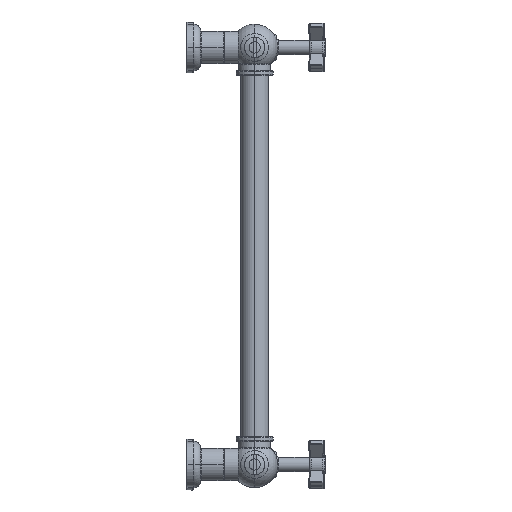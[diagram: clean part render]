
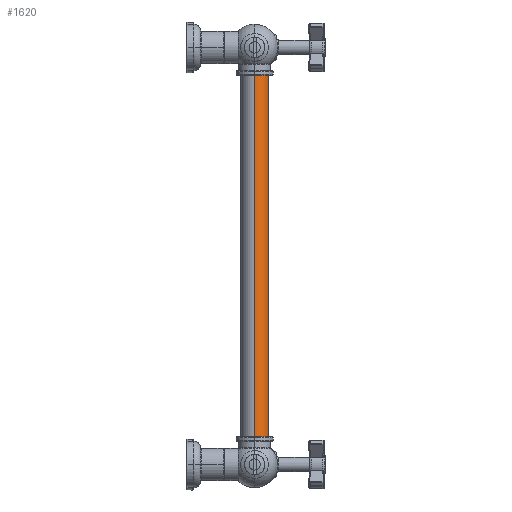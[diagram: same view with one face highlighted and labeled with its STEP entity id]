
A CAD part, left-side view. The second image highlights one B-rep face of the part: STEP entity #1620.
In plain terms, the highlighted cylindrical face has radius 15 mm (diameter 30 mm), a partial arc.
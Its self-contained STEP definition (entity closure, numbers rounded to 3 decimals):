
#241 = VECTOR ( 'NONE', #9413, 1000. ) ;
#671 = EDGE_CURVE ( 'NONE', #14215, #13517, #5617, .T. ) ;
#754 = EDGE_CURVE ( 'NONE', #7205, #13517, #6459, .T. ) ;
#861 = ORIENTED_EDGE ( 'NONE', *, *, #7500, .T. ) ;
#1117 = EDGE_CURVE ( 'NONE', #14625, #7205, #7494, .T. ) ;
#1620 = ADVANCED_FACE ( 'NONE', ( #15825 ), #14492, .T. ) ;
#1964 = CARTESIAN_POINT ( 'NONE',  ( 0., 0., 225. ) ) ;
#2341 = CARTESIAN_POINT ( 'NONE',  ( 0., 0., -225. ) ) ;
#4299 = DIRECTION ( 'NONE',  ( 1., 0., 0. ) ) ;
#4477 = VECTOR ( 'NONE', #11319, 1000. ) ;
#5617 = LINE ( 'NONE', #6661, #241 ) ;
#5958 = DIRECTION ( 'NONE',  ( 1., 0., 0. ) ) ;
#6459 = CIRCLE ( 'NONE', #11550, 15. ) ;
#6586 = DIRECTION ( 'NONE',  ( 1., 0., 0. ) ) ;
#6661 = CARTESIAN_POINT ( 'NONE',  ( 15., 0., -225. ) ) ;
#6783 = CARTESIAN_POINT ( 'NONE',  ( 15., 0., 225. ) ) ;
#7147 = CARTESIAN_POINT ( 'NONE',  ( -15., 0., -225. ) ) ;
#7205 = VERTEX_POINT ( 'NONE', #11752 ) ;
#7345 = CIRCLE ( 'NONE', #14714, 15. ) ;
#7494 = LINE ( 'NONE', #16812, #4477 ) ;
#7500 = EDGE_CURVE ( 'NONE', #14625, #14215, #7345, .T. ) ;
#8584 = CARTESIAN_POINT ( 'NONE',  ( 15., 0., -225. ) ) ;
#8983 = DIRECTION ( 'NONE',  ( 0., 0., 1. ) ) ;
#9413 = DIRECTION ( 'NONE',  ( 0., 0., 1. ) ) ;
#9657 = ORIENTED_EDGE ( 'NONE', *, *, #671, .T. ) ;
#10217 = ORIENTED_EDGE ( 'NONE', *, *, #1117, .F. ) ;
#10713 = AXIS2_PLACEMENT_3D ( 'NONE', #2341, #8983, #6586 ) ;
#11319 = DIRECTION ( 'NONE',  ( 0., 0., 1. ) ) ;
#11386 = CARTESIAN_POINT ( 'NONE',  ( 0., 0., -225. ) ) ;
#11550 = AXIS2_PLACEMENT_3D ( 'NONE', #1964, #15533, #5958 ) ;
#11752 = CARTESIAN_POINT ( 'NONE',  ( -15., 0., 225. ) ) ;
#12363 = DIRECTION ( 'NONE',  ( 0., 0., 1. ) ) ;
#13517 = VERTEX_POINT ( 'NONE', #6783 ) ;
#14215 = VERTEX_POINT ( 'NONE', #8584 ) ;
#14217 = EDGE_LOOP ( 'NONE', ( #10217, #861, #9657, #15024 ) ) ;
#14492 = CYLINDRICAL_SURFACE ( 'NONE', #10713, 15. ) ;
#14625 = VERTEX_POINT ( 'NONE', #7147 ) ;
#14714 = AXIS2_PLACEMENT_3D ( 'NONE', #11386, #12363, #4299 ) ;
#15024 = ORIENTED_EDGE ( 'NONE', *, *, #754, .F. ) ;
#15533 = DIRECTION ( 'NONE',  ( 0., 0., 1. ) ) ;
#15825 = FACE_OUTER_BOUND ( 'NONE', #14217, .T. ) ;
#16812 = CARTESIAN_POINT ( 'NONE',  ( -15., 0., -225. ) ) ;
